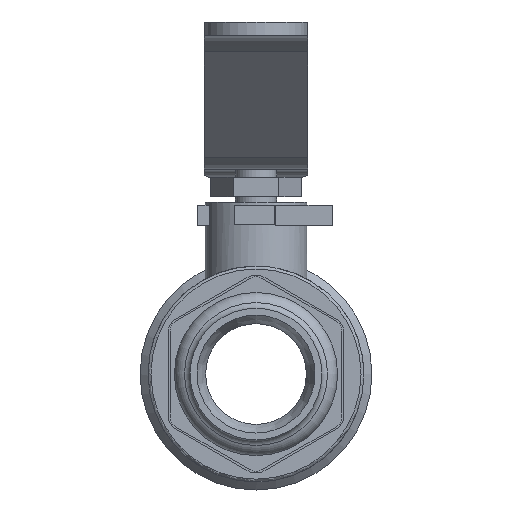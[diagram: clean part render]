
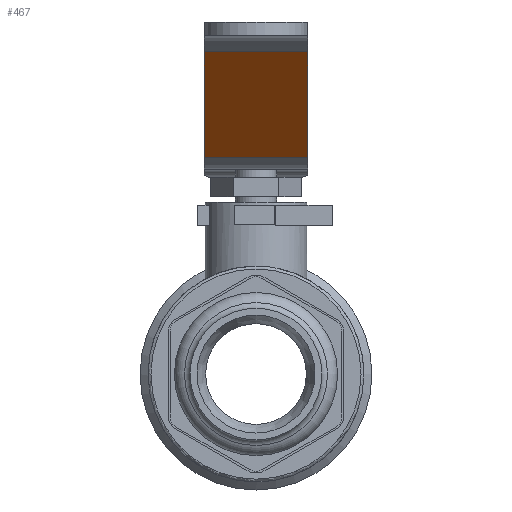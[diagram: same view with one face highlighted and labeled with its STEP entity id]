
A CAD part, left-side view. The second image highlights one B-rep face of the part: STEP entity #467.
In plain terms, the highlighted planar face has unit normal (-0.707, 0, -0.707).
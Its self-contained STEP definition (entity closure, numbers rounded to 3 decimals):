
#467=ADVANCED_FACE('',(#753),#652,.T.);
#652=PLANE('',#3248);
#753=FACE_OUTER_BOUND('',#904,.T.);
#904=EDGE_LOOP('',(#1888,#1889,#1890,#1891));
#1241=LINE('',#4798,#1477);
#1242=LINE('',#4801,#1478);
#1243=LINE('',#4803,#1479);
#1244=LINE('',#4805,#1480);
#1477=VECTOR('',#3835,1.);
#1478=VECTOR('',#3836,1.);
#1479=VECTOR('',#3837,1.);
#1480=VECTOR('',#3838,1.);
#1888=ORIENTED_EDGE('',*,*,#2798,.F.);
#1889=ORIENTED_EDGE('',*,*,#2799,.T.);
#1890=ORIENTED_EDGE('',*,*,#2800,.T.);
#1891=ORIENTED_EDGE('',*,*,#2801,.T.);
#2470=VERTEX_POINT('',#4799);
#2471=VERTEX_POINT('',#4800);
#2472=VERTEX_POINT('',#4802);
#2473=VERTEX_POINT('',#4804);
#2798=EDGE_CURVE('',#2470,#2471,#1241,.T.);
#2799=EDGE_CURVE('',#2470,#2472,#1242,.T.);
#2800=EDGE_CURVE('',#2472,#2473,#1243,.T.);
#2801=EDGE_CURVE('',#2473,#2471,#1244,.T.);
#3248=AXIS2_PLACEMENT_3D('',#4806,#3839,#3840);
#3835=DIRECTION('',(-0.707,0.,0.707));
#3836=DIRECTION('',(0.,-1.,0.));
#3837=DIRECTION('',(-0.707,0.,0.707));
#3838=DIRECTION('',(0.,1.,0.));
#3839=DIRECTION('',(-0.707,0.,-0.707));
#3840=DIRECTION('',(-0.707,0.,0.707));
#4798=CARTESIAN_POINT('',(-20.453,9.,35.7));
#4799=CARTESIAN_POINT('',(-22.591,9.,37.838));
#4800=CARTESIAN_POINT('',(-41.024,9.,56.271));
#4801=CARTESIAN_POINT('',(-22.591,-9.,37.838));
#4802=CARTESIAN_POINT('',(-22.591,-9.,37.838));
#4803=CARTESIAN_POINT('',(-20.453,-9.,35.7));
#4804=CARTESIAN_POINT('',(-41.024,-9.,56.271));
#4805=CARTESIAN_POINT('',(-41.024,9.,56.271));
#4806=CARTESIAN_POINT('',(-20.453,-9.,35.7));
